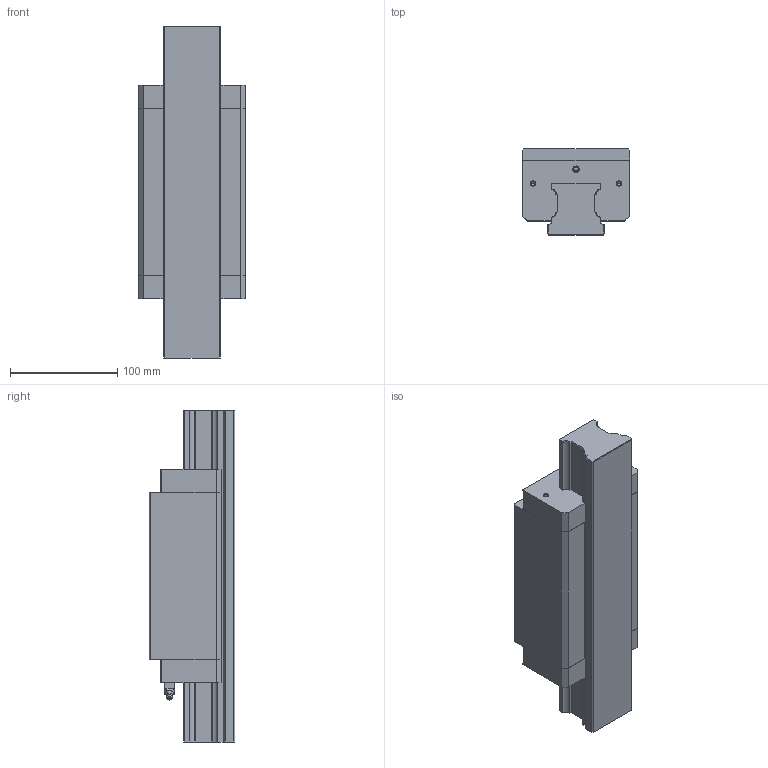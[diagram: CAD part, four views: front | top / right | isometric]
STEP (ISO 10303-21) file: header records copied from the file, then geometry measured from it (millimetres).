
FILE_DESCRIPTION((''),'2;1');
FILE_NAME('KWC_055_SLH_CS__ASM','2021-10-14T07:40:31',('ac91sw'),(''),'CREO PARAMETRIC BY PTC INC, 2020044','CREO PARAMETRIC BY PTC INC, 2020044','');
FILE_SCHEMA(('AUTOMOTIVE_DESIGN { 1 0 10303 214 1 1 1 1 }'));
Length unit declared in the file: millimetre
Products named in the file (7): KWC_055_SLH_CS__SKEL; R169750051; R160150012_Z; KWC_055_SLH_CS__PSF; R343706101_Z; R341700702_Z; KWC_055_SLH_CS__ASM
Assembly tree (7 placements, depth 2):
  KWC_055_SLH_CS__ASM
    KWC_055_SLH_CS__SKEL
    R169750051
    R160150012_Z  x2
    KWC_055_SLH_CS__PSF
    R343706101_Z
    R341700702_Z
Bounding box: 100 x 80 x 309 mm (x, y, z)
Volume: 1462472.4 mm3; surface area: 203655.1 mm2
Topology: 6 solids, 15 shells, 272 faces, 697 edges, 437 vertices
Faces by surface type: plane 154, cylinder 72, cone 42, bspline 2, sphere 2
Entity records: 12730 total; most frequent: CARTESIAN_POINT 1408, DIRECTION 1185, ORIENTED_EDGE 1086, PROPERTY_DEFINITION 820, REPRESENTATION 812, PROPERTY_DEFINITION_REPRESENTATION 812, DESCRIPTIVE_REPRESENTATION_ITEM 760, GENERAL_PROPERTY 752
